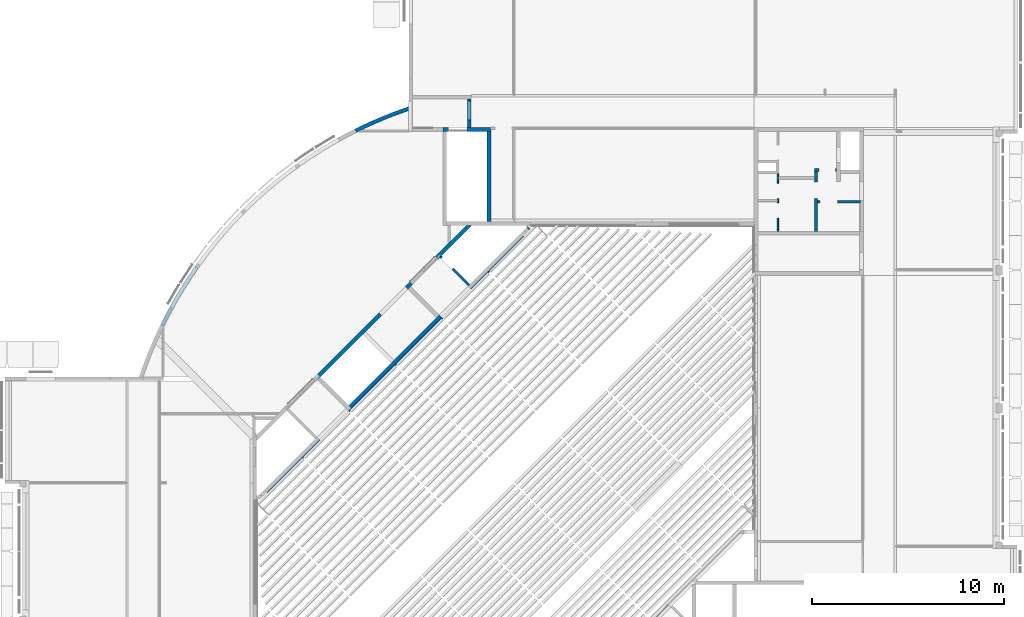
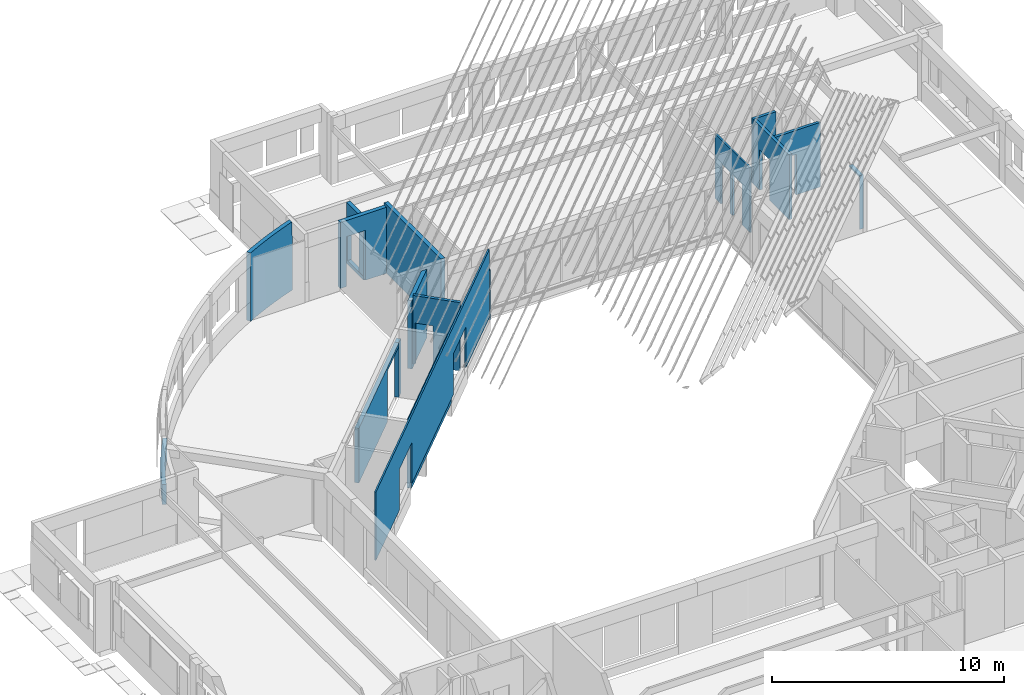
# One storey, part 36 of 37: 17 walls.
"""IFC4X3_ADD2 building model written with IfcOpenShell, lengths in millimetres."""

import ifcopenshell
import ifcopenshell.guid

model = None  # the IFC model being written
_history = None  # IfcOwnerHistory: only IFC2X3 demands one
_inside = {}  # id of a spatial element -> (the spatial element, [elements in it])
_under = {}  # id of a project, library or spatial element -> (it, [spatial elements below it])
_declared = {}  # id of a project -> (the project, [libraries it declares])
_typed = {}  # id of a type object -> (the type object, [elements of that type])
_made_of = {}  # id of a material, layer set ... -> (it, [elements and type objects made of it])


def new_model(schema):
    """Start an empty IFC model of exactly this schema.

    Asked for "IFC4X3", IfcOpenShell would pick the latest addendum, in which some entities
    have other attributes; the version numbers below select the first issue.
    IFC2X3 requires an IfcOwnerHistory on every rooted entity: one is made here for all.
    """
    global model, _history
    if schema == "IFC4X3":
        model = ifcopenshell.file(schema_version=(4, 3, 0, 0))
    else:
        model = ifcopenshell.file(schema=schema)
    _inside.clear()
    _under.clear()
    _declared.clear()
    _typed.clear()
    _made_of.clear()
    _history = None
    if model.schema == "IFC2X3":
        org = make("IfcOrganization", Name="unknown")
        user = make(
            "IfcPersonAndOrganization",
            ThePerson=make("IfcPerson", FamilyName="unknown"),
            TheOrganization=org,
        )
        app = make(
            "IfcApplication",
            ApplicationDeveloper=org,
            Version="unknown",
            ApplicationFullName="unknown",
            ApplicationIdentifier="unknown",
        )
        _history = make(
            "IfcOwnerHistory",
            OwningUser=user,
            OwningApplication=app,
            ChangeAction="ADDED",
            CreationDate=0,
        )
    return model


def make(cls, **values):
    """One entity of the class cls with the attributes given. An attribute that is None is left unset."""
    return model.create_entity(
        cls, **{name: value for name, value in values.items() if value is not None}
    )


def rooted(cls, **values):
    """An entity with a GlobalId (a new one), such as an element, a storey or a relation."""
    return make(cls, GlobalId=ifcopenshell.guid.new(), OwnerHistory=_history, **values)


def si_unit(unit_type, name, prefix=None):
    """IfcSIUnit, for example si_unit("LENGTHUNIT", "METRE", prefix="MILLI")."""
    return make("IfcSIUnit", UnitType=unit_type, Prefix=prefix, Name=name)


def assignment(units):
    """IfcUnitAssignment: the units of a project."""
    return None if units is None else make("IfcUnitAssignment", Units=units)


def point(xyz):
    """IfcCartesianPoint."""
    return None if xyz is None else make("IfcCartesianPoint", Coordinates=xyz)


def direction(xyz):
    """IfcDirection."""
    return None if xyz is None else make("IfcDirection", DirectionRatios=xyz)


def frame(location, z_axis=None, x_axis=None):
    """IfcAxis2Placement3D, a coordinate frame: its origin and axes. An axis left out is left unset."""
    return make(
        "IfcAxis2Placement3D",
        Location=point(location),
        Axis=direction(z_axis),
        RefDirection=direction(x_axis),
    )


def origin_with_axes():
    """The frame at (0, 0, 0) with the z axis (0, 0, 1) and the x axis (1, 0, 0) written out."""
    return frame((0.0, 0.0, 0.0), z_axis=(0.0, 0.0, 1.0), x_axis=(1.0, 0.0, 0.0))


def place(relative_to, where):
    """IfcLocalPlacement: puts the frame where relative to a parent placement (None: the world)."""
    return make(
        "IfcLocalPlacement", PlacementRelTo=relative_to, RelativePlacement=where
    )


def context(
    kind, dimensions, precision=None, world=None, true_north=None, identifier=None
):
    """IfcGeometricRepresentationContext, for example the 3D "Model" context."""
    return make(
        "IfcGeometricRepresentationContext",
        ContextIdentifier=identifier,
        ContextType=kind,
        CoordinateSpaceDimension=dimensions,
        Precision=precision,
        WorldCoordinateSystem=world,
        TrueNorth=true_north,
    )


def subcontext(parent, identifier, kind, view, scale=None):
    """IfcGeometricRepresentationSubContext, for example "Body" below "Model"."""
    return make(
        "IfcGeometricRepresentationSubContext",
        ContextIdentifier=identifier,
        ContextType=kind,
        ParentContext=parent,
        TargetScale=scale,
        TargetView=view,
    )


def project(units=None, contexts=None):
    """IfcProject with its units and contexts."""
    return rooted(
        "IfcProject",
        Name="project",
        RepresentationContexts=contexts,
        UnitsInContext=assignment(units),
    )


def spatial(cls, under=None, at=None, **own):
    """A site, building, storey or space (cls), placed at a placement, below another one or the project."""
    s = rooted(cls, ObjectPlacement=at, **own)
    if under is not None:
        _under.setdefault(under.id(), (under, []))[1].append(s)
    return s


def point_list(points):
    """IfcCartesianPointList2D or 3D."""
    cls = (
        "IfcCartesianPointList2D" if len(points[0]) == 2 else "IfcCartesianPointList3D"
    )
    return make(cls, CoordList=points)


def polygons(points, faces, closed=None, point_numbers=None):
    """IfcPolygonalFaceSet: a face is its outer loop, then its inner loops; points numbered from 1."""
    made = []
    for loops in faces:
        if len(loops) == 1:
            made.append(make("IfcIndexedPolygonalFace", CoordIndex=loops[0]))
        else:
            made.append(
                make(
                    "IfcIndexedPolygonalFaceWithVoids",
                    CoordIndex=loops[0],
                    InnerCoordIndices=loops[1:],
                )
            )
    return make(
        "IfcPolygonalFaceSet",
        Coordinates=point_list(points),
        Closed=closed,
        Faces=made,
        PnIndex=point_numbers,
    )


def shape(context_of_items, identifier, shape_type, items):
    """IfcShapeRepresentation: the items that make up one representation, for example the "Body"."""
    return make(
        "IfcShapeRepresentation",
        ContextOfItems=context_of_items,
        RepresentationIdentifier=identifier,
        RepresentationType=shape_type,
        Items=items,
    )


def source(mapping_origin, context_of_items, identifier, shape_type, items):
    """IfcRepresentationMap: a shape defined once, which mapped items show again and again."""
    return make(
        "IfcRepresentationMap",
        MappingOrigin=mapping_origin,
        MappedRepresentation=shape(context_of_items, identifier, shape_type, items),
    )


def transform(
    local_origin,
    x_axis=None,
    y_axis=None,
    z_axis=None,
    scale=None,
    scale2=None,
    scale3=None,
    uniform=True,
):
    """IfcCartesianTransformationOperator3D, or its non-uniform kind. x_axis, y_axis, z_axis: its Axis1, 2, 3."""
    if uniform:
        return make(
            "IfcCartesianTransformationOperator3D",
            Axis1=direction(x_axis),
            Axis2=direction(y_axis),
            LocalOrigin=point(local_origin),
            Scale=scale,
            Axis3=direction(z_axis),
        )
    return make(
        "IfcCartesianTransformationOperator3DnonUniform",
        Axis1=direction(x_axis),
        Axis2=direction(y_axis),
        LocalOrigin=point(local_origin),
        Scale=scale,
        Axis3=direction(z_axis),
        Scale2=scale2,
        Scale3=scale3,
    )


def mapped(mapping_source, mapping_target):
    """IfcMappedItem: shows the shape of a source again, moved by a transform."""
    return make(
        "IfcMappedItem", MappingSource=mapping_source, MappingTarget=mapping_target
    )


def material(Name=None, Category=None):
    """IfcMaterial."""
    return make("IfcMaterial", Name=Name, Category=Category)


def made_of(thing, what):
    """Note that an element or type object is made of a material, layer set ...; save() writes the relation."""
    if what is not None:
        _made_of.setdefault(what.id(), (what, []))[1].append(thing)
    return thing


def type_object(cls, material=None, **own):
    """A type object (cls), such as IfcWallType, which elements share."""
    return made_of(rooted(cls, **own), material)


def type_shapes(of_type, sources):
    """Give a type object the sources (RepresentationMaps) that its elements show as mapped items."""
    of_type.RepresentationMaps = sources


def element(
    cls,
    number,
    at=None,
    inside=None,
    cuts=None,
    type_object=None,
    material=None,
    context=None,
    identifier="Body",
    shape_type=None,
    held_by="IfcProductDefinitionShape",
    body=None,
    shapes=None,
    **own,
):
    """One element of the class cls, such as IfcWall. Its Tag is "e" and its number.

    at: its placement. inside: the storey or other place that contains it. cuts: it is an
    opening in that element (IfcRelVoidsElement). A single representation is given by context,
    identifier, shape_type and body (its items); several are given by shapes. held_by: the class
    of the entity that holds the representations. save() writes the other relations.
    """
    e = rooted(cls, Tag="e%d" % number, ObjectPlacement=at, **own)
    if body is not None:
        shapes = [shape(context, identifier, shape_type, body)]
    if shapes is not None:
        e.Representation = make(held_by, Representations=shapes)
    if inside is not None:
        _inside.setdefault(inside.id(), (inside, []))[1].append(e)
    if cuts is not None:
        rooted(
            "IfcRelVoidsElement", RelatingBuildingElement=cuts, RelatedOpeningElement=e
        )
    if type_object is not None:
        _typed.setdefault(type_object.id(), (type_object, []))[1].append(e)
    return made_of(e, material)


def aggregate(whole, parts):
    """IfcRelAggregates: a whole, such as a stair, and the parts it consists of."""
    return rooted("IfcRelAggregates", RelatingObject=whole, RelatedObjects=parts)


def save(model, path):
    """Write the relations noted so far, then the file.

    IfcRelAggregates (storeys below a building ...), IfcRelContainedInSpatialStructure (elements
    in a storey), IfcRelDefinesByType, IfcRelAssociatesMaterial and IfcRelDeclares: one each for
    every whole, place, type object, material and project.
    """
    for whole, parts in _under.values():
        aggregate(whole, parts)
    for where, things in _inside.values():
        rooted(
            "IfcRelContainedInSpatialStructure",
            RelatedElements=things,
            RelatingStructure=where,
        )
    for kind, things in _typed.values():
        rooted("IfcRelDefinesByType", RelatedObjects=things, RelatingType=kind)
    for what, things in _made_of.values():
        rooted("IfcRelAssociatesMaterial", RelatedObjects=things, RelatingMaterial=what)
    for by, libraries in _declared.values():
        rooted("IfcRelDeclares", RelatingContext=by, RelatedDefinitions=libraries)
    model.write(path)


model = new_model("IFC4X3_ADD2")

# Units and contexts
model_context = context("Model", 3, precision=1e-05, world=origin_with_axes(), true_north=direction((0.0, 1.0)))
body_context = subcontext(model_context, "Body", "Model", "MODEL_VIEW")
ifc_project = project(units=[si_unit("LENGTHUNIT", "METRE", prefix="MILLI"), si_unit("AREAUNIT", "SQUARE_METRE"), si_unit("VOLUMEUNIT", "CUBIC_METRE"), si_unit("PLANEANGLEUNIT", "RADIAN"), si_unit("TIMEUNIT", "SECOND"), si_unit("MASSUNIT", "GRAM")], contexts=[model_context])

# Site, building, storey
site_placement = place(None, origin_with_axes())
site = spatial("IfcSite", under=ifc_project, at=site_placement, Name="Site", CompositionType="ELEMENT")
building_placement = place(site_placement, origin_with_axes())
building = spatial("IfcBuilding", under=site, at=building_placement, Name="IFC Building Story")
storey_placement = place(building_placement, frame((0.0, 0.0, 3600.0), z_axis=(0.0, 0.0, 1.0), x_axis=(1.0, 0.0, 0.0)))
storey = spatial("IfcBuildingStorey", under=building, at=storey_placement, Name="010", Elevation=3600.0)

# Walls
ifc_material = material(Name="BB_Metselwerk_Betonsteen")
wall_type_1 = type_object("IfcWallType", Name="Basic Wall_BB_03.09.24#06_Wand uit metselwerk_EI60_43dB_ 190 mm", PredefinedType="NOTDEFINED")
shared_shape_1 = source(origin_with_axes(), body_context, "Body", "Tessellation", [
    polygons([(0.0, -94.9999999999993, 0.0), (1494.99999999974, -94.9999999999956, 0.0), (1494.99999999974, -94.9999999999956, 170.0), (0.0, -94.9999999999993, 170.0), (1494.99999999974, 95.0, 0.0), (0.0, 95.0, 0.0), (0.0, 95.0, 170.0), (1494.99999999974, 95.0, 170.0)], [[[1, 2, 3, 4]], [[5, 6, 7, 8]], [[2, 1, 6, 5]], [[2, 5, 8, 3]], [[4, 3, 8, 7]], [[6, 1, 4, 7]]]),
    polygons([(0.0, -94.9999999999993, 3200.0), (1494.99999999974, -94.9999999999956, 3200.0), (1494.99999999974, 95.0, 3200.0), (0.0, 95.0, 3200.0), (1494.99999999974, 95.0, 194.999999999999), (1494.99999999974, -94.9999999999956, 194.999999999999), (1099.99999999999, -94.9999999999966, 194.999999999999), (1099.99999999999, 94.9999999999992, 194.999999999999), (1099.99999999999, 94.9999999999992, 2360.0), (1099.99999999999, -94.9999999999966, 2360.0), (109.999999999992, -94.999999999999, 2360.0), (109.999999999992, 95.0000000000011, 2360.0), (109.999999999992, -94.999999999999, 194.999999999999), (109.999999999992, 95.0000000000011, 194.999999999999), (0.0, 95.0, 194.999999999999), (0.0, -94.9999999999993, 194.999999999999)], [[[1, 2, 3, 4]], [[5, 6, 7, 8]], [[9, 10, 11, 12]], [[12, 11, 13, 14]], [[10, 9, 8, 7]], [[1, 4, 15, 16]], [[16, 15, 14, 13]], [[3, 2, 6, 5]], [[12, 14, 15]], [[12, 15, 4]], [[4, 3, 9]], [[4, 9, 12]], [[3, 5, 8]], [[3, 8, 9]], [[10, 7, 6]], [[10, 6, 2]], [[2, 1, 11]], [[2, 11, 10]], [[1, 16, 13]], [[1, 13, 11]]]),
])
type_shapes(wall_type_1, [shared_shape_1])
wall_1_placement = place(storey_placement, frame((-27530.0, 45195.0, -200.0), z_axis=(0.0, 0.0, 1.0), x_axis=(0.0, -1.0, 0.0)))
element("IfcWall", 1, at=wall_1_placement, inside=storey, type_object=wall_type_1, material=ifc_material, Name="Basic Wall:BB_03.09.24#06_Wand uit metselwerk_EI60_43dB, 190 mm", ObjectType="Basic Wall:BB_03.09.24#06_Wand uit metselwerk_EI60_43dB, 190 mm", PredefinedType="SOLIDWALL", context=body_context, shape_type="MappedRepresentation", body=[
    mapped(shared_shape_1, transform((0.0, 0.0, 0.0))),
])
wall_type_2 = type_object("IfcWallType", Name="Basic Wall_BB_10.01_Akoestische voorzetwand atrium_ 75 mm1", PredefinedType="NOTDEFINED")
shared_shape_2 = source(origin_with_axes(), body_context, "Body", "Tessellation", [
    polygons([(4.33146851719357e-12, 37.4999999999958, 0.0), (3899.99999999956, 37.4999999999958, 0.0), (3899.99999999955, -12.5000000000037, 0.0), (-2.16573425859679e-12, -12.5000000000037, 0.0), (18900.0, 37.4999999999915, 0.0), (18900.0, 37.4999999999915, 3600.0), (18900.0, -12.5000000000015, 3600.0), (18900.0, -12.4999999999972, 0.0), (4.33146851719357e-12, 37.4999999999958, 3600.0), (-2.16573425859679e-12, -12.5000000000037, 3600.0), (3899.99999999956, 37.4999999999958, 2155.0), (3899.99999999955, -12.5000000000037, 2155.0), (5999.99999999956, 37.4999999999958, 2155.00000000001), (5999.99999999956, -12.5000000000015, 2155.00000000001), (5999.99999999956, 37.4999999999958, 0.0), (5999.99999999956, -12.5000000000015, 0.0), (12900.0000000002, 37.4999999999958, 0.0), (12900.0000000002, -12.4999999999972, 0.0), (12900.0000000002, 37.4999999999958, 2155.00000000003), (12900.0000000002, -12.4999999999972, 2155.00000000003), (15000.0000000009, 37.4999999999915, 2155.00000000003), (15000.0000000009, -12.5000000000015, 2155.00000000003), (15000.0000000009, 37.4999999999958, 0.0), (15000.0000000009, -12.5000000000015, 0.0)], [[[1, 2, 3, 4]], [[5, 6, 7, 8]], [[6, 9, 10, 7]], [[9, 1, 4, 10]], [[2, 11, 12, 3]], [[11, 13, 14, 12]], [[13, 15, 16, 14]], [[15, 17, 18, 16]], [[17, 19, 20, 18]], [[19, 21, 22, 20]], [[21, 23, 24, 22]], [[23, 5, 8, 24]], [[22, 24, 8]], [[22, 8, 7]], [[7, 20, 22]], [[20, 7, 14]], [[14, 16, 18]], [[14, 18, 20]], [[7, 10, 14]], [[10, 12, 14]], [[10, 4, 3]], [[10, 3, 12]], [[11, 2, 1]], [[11, 1, 9]], [[9, 13, 11]], [[13, 9, 19]], [[19, 17, 15]], [[19, 15, 13]], [[9, 6, 19]], [[6, 21, 19]], [[6, 5, 23]], [[6, 23, 21]]]),
    polygons([(0.0, -25.0000000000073, 0.0), (-2.16573425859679e-12, -12.5000000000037, 0.0), (3899.99999999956, -12.5000000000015, 0.0), (3899.99999999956, -25.000000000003, 0.0), (18900.0, -25.000000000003, 0.0), (18900.0, -12.4999999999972, 0.0), (18900.0, -12.5000000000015, 3600.0), (18900.0, -25.000000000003, 3600.0), (-2.16573425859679e-12, -12.5000000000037, 3600.0), (0.0, -25.0000000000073, 3600.0), (3899.99999999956, -12.5000000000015, 2155.0), (3899.99999999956, -25.000000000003, 2155.0), (5999.99999999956, -12.5000000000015, 2155.00000000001), (5999.99999999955, -25.0000000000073, 2155.00000000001), (5999.99999999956, -12.5000000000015, 0.0), (5999.99999999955, -25.0000000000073, 0.0), (12900.0000000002, -12.4999999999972, 0.0), (12900.0000000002, -25.000000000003, 0.0), (12900.0000000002, -12.4999999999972, 2155.00000000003), (12900.0000000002, -25.000000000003, 2155.00000000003), (15000.0000000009, -12.5000000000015, 2155.00000000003), (15000.0000000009, -25.000000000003, 2155.00000000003), (15000.0000000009, -12.4999999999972, 0.0), (15000.0000000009, -24.9999999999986, 0.0)], [[[1, 2, 3, 4]], [[5, 6, 7, 8]], [[8, 7, 9, 10]], [[2, 1, 10, 9]], [[4, 3, 11, 12]], [[12, 11, 13, 14]], [[14, 13, 15, 16]], [[16, 15, 17, 18]], [[18, 17, 19, 20]], [[20, 19, 21, 22]], [[22, 21, 23, 24]], [[6, 5, 24, 23]], [[22, 24, 5]], [[22, 5, 8]], [[8, 20, 22]], [[20, 8, 14]], [[14, 16, 18]], [[14, 18, 20]], [[8, 10, 14]], [[10, 12, 14]], [[10, 1, 4]], [[10, 4, 12]], [[11, 3, 2]], [[11, 2, 9]], [[9, 13, 11]], [[13, 9, 19]], [[19, 17, 15]], [[19, 15, 13]], [[9, 7, 19]], [[7, 21, 19]], [[7, 6, 23]], [[7, 23, 21]]]),
    polygons([(3899.99999999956, -25.000000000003, 0.0), (0.0, -25.0000000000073, 0.0), (0.0, -25.0000000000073, 3600.0), (18900.0, -25.000000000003, 3600.0), (18900.0, -25.000000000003, 0.0), (15000.0000000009, -24.9999999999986, 0.0), (15000.0000000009, -25.000000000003, 2155.00000000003), (12900.0000000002, -25.000000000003, 2155.00000000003), (12900.0000000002, -25.000000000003, 0.0), (5999.99999999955, -25.0000000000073, 0.0), (5999.99999999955, -25.0000000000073, 2155.00000000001), (3899.99999999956, -25.000000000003, 2155.0), (-2.16573425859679e-12, -37.5000000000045, 0.0), (3899.99999999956, -37.5000000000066, 0.0), (3899.99999999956, -37.5000000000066, 2155.0), (5999.99999999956, -37.5000000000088, 2155.00000000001), (5999.99999999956, -37.5000000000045, 0.0), (12900.0000000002, -37.5000000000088, 0.0), (12900.0000000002, -37.5000000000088, 2155.00000000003), (15000.0000000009, -37.5000000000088, 2155.00000000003), (15000.0000000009, -37.5000000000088, 0.0), (18900.0, -37.5000000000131, 0.0), (18900.0, -37.5000000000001, 3600.0), (-2.16573425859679e-12, -37.5000000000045, 3600.0)], [[[12, 1, 2]], [[12, 2, 3]], [[3, 11, 12]], [[11, 3, 8]], [[8, 9, 10]], [[8, 10, 11]], [[3, 4, 8]], [[4, 7, 8]], [[4, 5, 6]], [[4, 6, 7]], [[20, 21, 22]], [[20, 22, 23]], [[23, 19, 20]], [[19, 23, 16]], [[16, 17, 18]], [[16, 18, 19]], [[23, 24, 16]], [[24, 15, 16]], [[24, 13, 14]], [[24, 14, 15]], [[14, 13, 2, 1]], [[23, 22, 5, 4]], [[24, 23, 4, 3]], [[13, 24, 3, 2]], [[15, 14, 1, 12]], [[16, 15, 12, 11]], [[17, 16, 11, 10]], [[18, 17, 10, 9]], [[19, 18, 9, 8]], [[20, 19, 8, 7]], [[21, 20, 7, 6]], [[22, 21, 6, 5]]]),
])
type_shapes(wall_type_2, [shared_shape_2])
wall_2_placement = place(storey_placement, frame((-38035.7940969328, 24671.4759325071, 230.0), z_axis=(0.0, 0.0, 1.0), x_axis=(0.7071067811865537, 0.7071067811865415, 0.0)))
element("IfcWall", 2, at=wall_2_placement, inside=storey, type_object=wall_type_2, Name="Basic Wall:BB_10.01_Akoestische voorzetwand atrium, 75 mm", ObjectType="Basic Wall:BB_10.01_Akoestische voorzetwand atrium, 75 mm", PredefinedType="PARTITIONING", context=body_context, shape_type="MappedRepresentation", body=[
    mapped(shared_shape_2, transform((0.0, 0.0, 0.0))),
])
wall_3_placement = place(storey_placement, frame((0.0, 0.0, -3600.0), z_axis=(0.0, 0.0, 1.0), x_axis=(1.0, 0.0, 0.0)))
element("IfcWall", 3, at=wall_3_placement, inside=storey, Name="Basic Wall:BB_XX_Wand uit beton, 200 mm", ObjectType="Basic Wall:BB_XX_Wand uit beton, 200 mm", PredefinedType="SOLIDWALL", context=body_context, shape_type="Tessellation", body=[
    polygons([(-35435.40890911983, 30577.58532236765, 6280.0), (-35435.40890911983, 30577.58532236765, 3400.0), (-32095.03647479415, 33917.95775669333, 3400.000000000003), (-32095.03647479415, 33917.95775669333, 6095.0), (-30719.00667860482, 35293.98755288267, 6095.0), (-30719.00667860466, 35293.98755288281, 6280.0), (-35576.83026535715, 30719.00667860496, 3400.0), (-35576.83026535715, 30719.00667860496, 6280.0), (-30860.42803484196, 35435.40890912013, 6280.0), (-30860.42803484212, 35435.40890911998, 6095.0), (-32236.45783103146, 34059.37911293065, 6095.0), (-32236.45783103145, 34059.37911293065, 3400.000000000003)], [[[4, 5, 6]], [[4, 6, 1]], [[1, 2, 3]], [[1, 3, 4]], [[11, 12, 7]], [[11, 7, 8]], [[8, 9, 11]], [[9, 10, 11]], [[2, 7, 12, 3]], [[8, 1, 6, 9]], [[2, 1, 8, 7]], [[12, 11, 4, 3]], [[11, 10, 5, 4]], [[6, 5, 10, 9]]]),
])
wall_4_placement = place(storey_placement, frame((0.0, 0.0, -3600.0), z_axis=(0.0, 0.0, 1.0), x_axis=(1.0, 0.0, 0.0)))
element("IfcWall", 4, at=wall_4_placement, inside=storey, Name="Basic Wall:BB_XX_Wand uit beton, 200 mm", ObjectType="Basic Wall:BB_XX_Wand uit beton, 200 mm", PredefinedType="SOLIDWALL", context=body_context, shape_type="Tessellation", body=[
    polygons([(-29092.66108187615, 33950.48466862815, 7000.0), (-29092.66108187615, 33950.48466862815, 3400.0), (-29234.08243811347, 33809.06331239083, 3400.0), (-33809.06331239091, 29234.0824381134, 3400.0), (-33809.06331239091, 29234.0824381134, 7000.0), (-29234.08243811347, 33809.06331239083, 7000.0), (-28951.23972563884, 33809.06331239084, 3400.0), (-28951.23972563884, 33809.06331239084, 7000.0), (-33667.6419561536, 29092.6610818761, 7000.0), (-33667.6419561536, 29092.6610818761, 3400.0)], [[[3, 4, 5]], [[3, 5, 6]], [[6, 1, 2]], [[6, 2, 3]], [[7, 8, 9, 10]], [[3, 2, 7]], [[7, 10, 4]], [[7, 4, 3]], [[6, 5, 9]], [[6, 9, 8]], [[8, 1, 6]], [[2, 1, 8, 7]], [[5, 4, 10, 9]]]),
])
wall_5_placement = place(storey_placement, frame((0.0, 0.0, -3600.0), z_axis=(0.0, 0.0, 1.0), x_axis=(1.0, 0.0, 0.0)))
element("IfcWall", 5, at=wall_5_placement, inside=storey, Name="Basic Wall:BB_XX_Wand uit beton, 200 mm", ObjectType="Basic Wall:BB_XX_Wand uit beton, 200 mm", PredefinedType="SOLIDWALL", context=body_context, shape_type="Tessellation", body=[
    polygons([(-26600.00000000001, 38799.99593411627, 3520.0), (-26600.00000000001, 38799.99593411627, 7120.0), (-26600.0, 43700.0, 7120.0), (-26600.0, 43700.0, 7000.0), (-26600.0, 43510.00000000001, 7000.0), (-26600.0, 43500.0, 7000.0), (-26600.0, 43500.0, 3520.0), (-26400.0, 38799.99593411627, 7120.0), (-26400.0, 38799.99593411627, 3520.0), (-26400.0, 43500.0, 3520.0), (-26400.0, 43500.0, 7000.0), (-26400.0, 43510.00000000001, 7000.0), (-26400.0, 43700.0, 7000.0), (-26400.0, 43700.0, 7120.0)], [[[6, 7, 1]], [[6, 1, 2]], [[2, 3, 6]], [[3, 5, 6]], [[3, 4, 5]], [[12, 13, 14]], [[14, 11, 12]], [[11, 14, 8]], [[8, 9, 10]], [[8, 10, 11]], [[9, 1, 7, 10]], [[14, 3, 2, 8]], [[3, 14, 13, 4]], [[2, 1, 9, 8]], [[6, 11, 10, 7]], [[11, 6, 5, 12]], [[12, 5, 4, 13]]]),
])
wall_6_placement = place(storey_placement, frame((0.0, 0.0, -3600.0), z_axis=(0.0, 0.0, 1.0), x_axis=(1.0, 0.0, 0.0)))
element("IfcWall", 6, at=wall_6_placement, inside=storey, Name="Basic Wall:BB_XX_Wand uit beton, 200 mm", ObjectType="Basic Wall:BB_XX_Wand uit beton, 200 mm", PredefinedType="SOLIDWALL", context=body_context, shape_type="Tessellation", body=[
    polygons([(-28900.0, 43500.00000000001, 3520.0), (-28700.0, 43500.00000000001, 3520.0), (-28600.00000000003, 43500.00000000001, 3520.0), (-28600.00000000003, 43500.00000000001, 6150.0), (-27640.00000000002, 43500.00000000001, 6150.0), (-27640.00000000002, 43500.00000000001, 3520.0), (-26600.00000000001, 43500.00000000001, 3520.0), (-26400.00000000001, 43500.00000000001, 3520.0), (-26400.00000000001, 43500.00000000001, 7000.0), (-26600.00000000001, 43500.00000000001, 7000.0), (-28900.0, 43500.00000000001, 7000.0), (-28900.0, 43700.0, 3520.0), (-28900.0, 43700.0, 7000.0), (-26600.00000000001, 43700.0, 7000.0), (-26400.00000000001, 43700.0, 7000.0), (-26400.00000000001, 43700.0, 3520.0), (-27640.00000000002, 43700.0, 3520.0), (-27640.00000000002, 43700.0, 6150.0), (-28600.00000000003, 43700.0, 6150.0), (-28600.00000000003, 43700.0, 3520.0), (-28900.0, 43510.00000000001, 7000.0), (-26400.00000000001, 43510.00000000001, 7000.0)], [[[7, 8, 9]], [[7, 9, 10]], [[7, 10, 5]], [[5, 6, 7]], [[10, 11, 4]], [[10, 4, 5]], [[11, 2, 3]], [[11, 3, 4]], [[11, 1, 2]], [[14, 15, 16]], [[19, 20, 12]], [[19, 12, 13]], [[13, 14, 18]], [[13, 18, 19]], [[14, 16, 17]], [[14, 17, 18]], [[21, 13, 12]], [[21, 12, 1]], [[1, 11, 21]], [[2, 1, 12]], [[2, 12, 20]], [[20, 3, 2]], [[22, 9, 8]], [[8, 16, 15]], [[8, 15, 22]], [[4, 3, 20, 19]], [[5, 4, 19, 18]], [[6, 5, 18, 17]], [[7, 6, 17]], [[7, 17, 16]], [[16, 8, 7]], [[10, 9, 22]], [[10, 22, 21]], [[21, 11, 10]], [[14, 13, 21]], [[14, 21, 22]], [[22, 15, 14]]]),
])
wall_7_placement = place(storey_placement, frame((0.0, 0.0, -3600.0), z_axis=(0.0, 0.0, 1.0), x_axis=(1.0, 0.0, 0.0)))
element("IfcWall", 7, at=wall_7_placement, inside=storey, Name="Basic Wall:BB_XX_Wand uit beton, 200 mm", ObjectType="Basic Wall:BB_XX_Wand uit beton, 200 mm", PredefinedType="SOLIDWALL", context=body_context, shape_type="Tessellation", body=[
    polygons([(-30634.15386486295, 35661.68307909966, 3400.0), (-30860.42803484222, 35435.40890912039, 3400.0), (-30860.42803484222, 35435.40890912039, 6095.0), (-30860.42803484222, 35435.40890912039, 6280.0), (-30634.15386486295, 35661.68307909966, 6280.0), (-30719.00667860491, 35293.98755288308, 3400.0), (-30492.73250862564, 35520.26172286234, 3400.0), (-30492.73250862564, 35520.26172286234, 6280.0), (-30719.00667860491, 35293.98755288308, 6280.0), (-30719.00667860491, 35293.98755288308, 6095.0)], [[[3, 4, 5]], [[5, 1, 2]], [[5, 2, 3]], [[10, 6, 7]], [[10, 7, 8]], [[8, 9, 10]], [[2, 1, 7, 6]], [[10, 9, 4]], [[10, 4, 3]], [[3, 2, 6]], [[3, 6, 10]], [[5, 4, 9, 8]], [[1, 5, 8, 7]]]),
])
wall_8_placement = place(storey_placement, frame((0.0, 0.0, -3600.0), z_axis=(0.0, 0.0, 1.0), x_axis=(1.0, 0.0, 0.0)))
element("IfcWall", 8, at=wall_8_placement, inside=storey, Name="Basic Wall:BB_XX_Wand uit beton, 200 mm", ObjectType="Basic Wall:BB_XX_Wand uit beton, 200 mm", PredefinedType="SOLIDWALL", context=body_context, shape_type="Tessellation", body=[
    polygons([(-27554.41965360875, 38741.41729035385, 3400.0), (-28484.00000000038, 37811.83694396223, 3400.0), (-28624.00000000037, 37671.83694396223, 3400.0), (-29297.72204842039, 36998.11489554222, 3400.0), (-29297.72204842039, 36998.11489554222, 7000.0), (-28624.00000000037, 37671.83694396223, 7000.0), (-28484.00000000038, 37811.83694396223, 7000.0), (-27695.84100984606, 38599.99593411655, 7000.0), (-27695.84100984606, 38599.99593411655, 3520.0), (-27554.41965360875, 38741.41729035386, 3520.0), (-29156.30069218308, 36856.69353930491, 3400.0), (-27412.99829737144, 38599.99593411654, 3400.0), (-27412.99829737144, 38599.99593411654, 3520.0), (-27412.99829737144, 38599.99593411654, 7000.0), (-29156.30069218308, 36856.69353930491, 7000.0)], [[[3, 4, 5]], [[3, 5, 6]], [[6, 7, 2]], [[6, 2, 3]], [[9, 10, 1]], [[9, 1, 2]], [[2, 7, 8]], [[2, 8, 9]], [[13, 14, 15]], [[13, 15, 11]], [[11, 12, 13]], [[2, 1, 12]], [[2, 12, 11]], [[11, 3, 2]], [[11, 4, 3]], [[5, 4, 11, 15]], [[6, 5, 15]], [[15, 7, 6]], [[15, 14, 8]], [[15, 8, 7]], [[12, 1, 10, 13]], [[13, 9, 8, 14]], [[9, 13, 10]]]),
])
wall_9_placement = place(storey_placement, frame((0.0, 0.0, -3600.0), z_axis=(0.0, 0.0, 1.0), x_axis=(1.0, 0.0, 0.0)))
element("IfcWall", 9, at=wall_9_placement, inside=storey, Name="Basic Wall:BB_XX_Wand uit metselwerk, 90 mm", ObjectType="Basic Wall:BB_XX_Wand uit metselwerk, 90 mm", PredefinedType="SOLIDWALL", context=body_context, shape_type="Tessellation", body=[
    polygons([(-11410.004065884, 41299.99999999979, 3520.0), (-11410.004065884, 41299.99999999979, 6920.0), (-11410.004065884, 38300.0, 6920.0), (-11410.004065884, 38300.0, 3520.0), (-11410.004065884, 38991.9999999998, 3520.0), (-11410.004065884, 38991.9999999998, 5660.0), (-11410.004065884, 39797.9999999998, 5660.0), (-11410.004065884, 39797.9999999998, 3520.0), (-11410.004065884, 40001.99999999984, 3520.0), (-11410.004065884, 40001.99999999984, 5660.0), (-11410.004065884, 40807.99999999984, 5660.0), (-11410.004065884, 40807.99999999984, 3520.0), (-11500.004065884, 41299.99999999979, 6920.0), (-11500.004065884, 41299.99999999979, 3520.0), (-11500.004065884, 40807.99999999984, 3520.0), (-11500.004065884, 40807.99999999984, 5660.0), (-11500.004065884, 40001.99999999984, 5660.0), (-11500.004065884, 40001.99999999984, 3520.0), (-11500.004065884, 39797.99999999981, 3520.0), (-11500.004065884, 39797.9999999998, 5660.0), (-11500.004065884, 38991.9999999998, 5660.0), (-11500.004065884, 38991.9999999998, 3520.0), (-11500.004065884, 38300.0, 3520.0), (-11500.004065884, 38300.0, 6920.0)], [[[11, 12, 1]], [[11, 1, 2]], [[2, 10, 11]], [[2, 7, 10]], [[7, 8, 9]], [[7, 9, 10]], [[2, 3, 7]], [[3, 6, 7]], [[3, 4, 5]], [[3, 5, 6]], [[21, 22, 23]], [[21, 23, 24]], [[24, 20, 21]], [[24, 17, 20]], [[17, 18, 19]], [[17, 19, 20]], [[24, 13, 17]], [[13, 16, 17]], [[13, 14, 15]], [[13, 15, 16]], [[4, 23, 22, 5]], [[2, 1, 14, 13]], [[3, 2, 13, 24]], [[4, 3, 24, 23]], [[7, 20, 19, 8]], [[21, 6, 5, 22]], [[20, 7, 6, 21]], [[17, 10, 9, 18]], [[11, 16, 15, 12]], [[10, 17, 16, 11]], [[8, 19, 18, 9]], [[14, 1, 12, 15]]]),
])
wall_10_placement = place(storey_placement, frame((0.0, 0.0, -3600.0), z_axis=(0.0, 0.0, 1.0), x_axis=(1.0, 0.0, 0.0)))
element("IfcWall", 10, at=wall_10_placement, inside=storey, Name="Basic Wall:BB_XX_Wand uit metselwerk, 140 mm", ObjectType="Basic Wall:BB_XX_Wand uit metselwerk, 140 mm", PredefinedType="SOLIDWALL", context=body_context, shape_type="Tessellation", body=[
    polygons([(-9540.0, 41560.0, 6920.0), (-8389.999999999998, 41560.0, 6920.0), (-8389.999999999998, 41560.0, 3520.0), (-8465.000000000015, 41560.0, 3520.0), (-8465.000000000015, 41560.0, 5660.0), (-9325.000000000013, 41560.0, 5660.0), (-9325.000000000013, 41560.0, 3520.0), (-9540.0, 41560.0, 3520.0), (-8389.999999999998, 41420.0, 6920.0), (-9400.0, 41420.0, 6920.0), (-9540.0, 41420.0, 6920.0), (-9540.0, 41420.0, 3520.0), (-9400.0, 41420.0, 3520.0), (-9325.000000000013, 41420.0, 3520.0), (-9325.000000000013, 41420.0, 5660.0), (-8465.000000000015, 41420.0, 5660.0), (-8465.000000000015, 41420.0, 3520.0), (-8389.999999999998, 41420.0, 3520.0)], [[[6, 7, 8]], [[6, 8, 1]], [[1, 2, 5]], [[1, 5, 6]], [[5, 2, 3]], [[3, 4, 5]], [[10, 11, 12]], [[10, 12, 13]], [[16, 17, 18]], [[18, 9, 16]], [[9, 10, 15]], [[9, 15, 16]], [[15, 10, 13]], [[13, 14, 15]], [[3, 18, 17, 4]], [[10, 9, 2]], [[10, 2, 1]], [[1, 11, 10]], [[3, 2, 9, 18]], [[1, 8, 12, 11]], [[6, 15, 14, 7]], [[16, 5, 4, 17]], [[15, 6, 5, 16]], [[13, 12, 8]], [[13, 8, 7]], [[7, 14, 13]]]),
])
wall_11_placement = place(storey_placement, frame((0.0, 0.0, -3600.0), z_axis=(0.0, 0.0, 1.0), x_axis=(1.0, 0.0, 0.0)))
element("IfcWall", 11, at=wall_11_placement, inside=storey, Name="Basic Wall:BB_XX_Wand uit metselwerk, 140 mm", ObjectType="Basic Wall:BB_XX_Wand uit metselwerk, 140 mm", PredefinedType="SOLIDWALL", context=body_context, shape_type="Tessellation", body=[
    polygons([(-9540.0, 38300.0000000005, 3520.0), (-9540.0, 38300.0000000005, 6920.0), (-9540.0, 41420.0, 6920.0), (-9540.0, 41420.0, 3520.0), (-9540.0, 40870.00000000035, 3520.0), (-9540.0, 40870.00000000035, 5660.0), (-9540.0, 40010.00000000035, 5660.0), (-9540.0, 40010.00000000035, 3520.0), (-9400.0, 38300.0000000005, 6920.0), (-9400.0, 38300.0000000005, 3520.0), (-9400.0, 40010.00000000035, 3520.0), (-9400.0, 40010.00000000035, 5660.0), (-9400.0, 40870.00000000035, 5660.0), (-9400.0, 40870.00000000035, 3520.0), (-9400.000000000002, 41420.0, 3520.0), (-9400.000000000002, 41420.0, 6920.0)], [[[7, 8, 1]], [[7, 1, 2]], [[2, 3, 7]], [[3, 6, 7]], [[3, 4, 5]], [[3, 5, 6]], [[13, 14, 15]], [[13, 15, 16]], [[16, 12, 13]], [[12, 16, 9]], [[9, 10, 11]], [[9, 11, 12]], [[4, 15, 14, 5]], [[2, 1, 10, 9]], [[3, 2, 9, 16]], [[4, 3, 16, 15]], [[7, 12, 11, 8]], [[13, 6, 5, 14]], [[12, 7, 6, 13]], [[10, 1, 8, 11]]]),
])
wall_12_placement = place(storey_placement, frame((0.0, 0.0, -3600.0), z_axis=(0.0, 0.0, 1.0), x_axis=(1.0, 0.0, 0.0)))
element("IfcWall", 12, at=wall_12_placement, inside=storey, Name="Basic Wall:BB_XX_Wand uit metselwerk, 140 mm", ObjectType="Basic Wall:BB_XX_Wand uit metselwerk, 140 mm", PredefinedType="SOLIDWALL", context=body_context, shape_type="Tessellation", body=[
    polygons([(-7140.00000000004, 39770.0, 3520.0), (-7140.00000000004, 39770.0, 6920.0), (-9400.000000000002, 39770.0, 6920.0), (-9400.000000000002, 39770.0, 3520.0), (-9250.073181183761, 39770.0, 3520.0), (-9250.073181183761, 39770.0, 5660.0), (-8340.07318118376, 39770.0, 5660.0), (-8340.07318118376, 39770.0, 3520.0), (-7140.00000000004, 39910.0, 6920.0), (-7140.00000000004, 39910.0, 3520.0), (-8340.07318118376, 39910.0, 3520.0), (-8340.07318118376, 39910.0, 5660.0), (-9250.073181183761, 39910.0, 5660.0), (-9250.073181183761, 39910.0, 3520.0), (-9400.000000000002, 39910.0, 3520.0), (-9400.000000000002, 39910.0, 6920.0)], [[[7, 8, 1]], [[7, 1, 2]], [[2, 3, 7]], [[3, 6, 7]], [[3, 4, 5]], [[3, 5, 6]], [[13, 14, 15]], [[13, 15, 16]], [[16, 12, 13]], [[12, 16, 9]], [[9, 10, 11]], [[9, 11, 12]], [[4, 15, 14, 5]], [[2, 1, 10, 9]], [[3, 2, 9, 16]], [[4, 3, 16, 15]], [[7, 12, 11, 8]], [[13, 6, 5, 14]], [[12, 7, 6, 13]], [[10, 1, 8, 11]]]),
])
wall_13_placement = place(storey_placement, frame((0.0, 0.0, -3600.0), z_axis=(0.0, 0.0, 1.0), x_axis=(1.0, 0.0, 0.0)))
element("IfcWall", 13, at=wall_13_placement, inside=storey, Name="Basic Wall:BB_XX_Wand uit metselwerk, 200 mm", ObjectType="Basic Wall:BB_XX_Wand uit metselwerk, 200 mm", PredefinedType="SOLIDWALL", context=body_context, shape_type="Tessellation", body=[
    polygons([(-7200.0, 36299.99999999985, 3400.0), (-7200.0, 36299.99999999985, 6230.0), (-7200.0, 37210.0, 6230.0), (-7200.0, 37210.0, 6150.00000000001), (-7200.0, 36304.99999999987, 6150.00000000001), (-7200.0, 36304.99999999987, 3400.0), (-7000.0, 36299.99999999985, 6230.0), (-7000.0, 36299.99999999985, 3400.0), (-7000.0, 36304.99999999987, 3400.0), (-7000.0, 36304.99999999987, 6150.00000000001), (-7000.0, 37210.0, 6150.00000000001), (-7000.0, 37210.0, 6230.0)], [[[5, 6, 1]], [[1, 2, 5]], [[2, 3, 4]], [[2, 4, 5]], [[10, 11, 12]], [[10, 12, 7]], [[10, 7, 8]], [[8, 9, 10]], [[8, 1, 6, 9]], [[2, 1, 8, 7]], [[3, 2, 7, 12]], [[3, 12, 11, 4]], [[10, 5, 4, 11]], [[5, 10, 9, 6]]]),
])
wall_14_placement = place(storey_placement, frame((0.0, 0.0, -3600.0), z_axis=(0.0, 0.0, 1.0), x_axis=(1.0, 0.0, 0.0)))
element("IfcWall", 14, at=wall_14_placement, inside=storey, Name="Basic Wall:BB_XX_Wand uit beton, 200 mm", ObjectType="Basic Wall:BB_XX_Wand uit beton, 200 mm", PredefinedType="SOLIDWALL", context=body_context, shape_type="Tessellation", body=[
    polygons([(-42369.38949554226, 35637.81249165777, 4440.0), (-42635.59535018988, 35209.69944943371, 4440.0), (-42892.08111086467, 34775.69324148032, 4440.0), (-43138.71637855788, 34336.01451934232, 4440.0), (-43375.37576231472, 33890.88681850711, 4440.0), (-43601.93894298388, 33440.53644475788, 4440.0), (-43422.27232708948, 33352.67344268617, 4440.0), (-43197.73581586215, 33798.99530951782, 4440.0), (-42963.19341483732, 34240.14122166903, 4440.0), (-42718.76436687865, 34675.88689772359, 4440.0), (-42464.57294128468, 35106.01080178, 4440.0), (-42200.74837060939, 35530.29425608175, 4440.0), (-41927.4247849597, 35948.52155219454, 4440.0), (-41644.74114380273, 36360.4800606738, 4440.0), (-41808.36374034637, 36475.49156401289, 4440.0), (-42093.59888768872, 36059.81471273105, 4440.0), (-43422.27232708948, 33352.67344268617, 3400.0), (-43592.09195014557, 33435.72093494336, 3400.0), (-43590.36397477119, 33439.24342298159, 3400.0), (-43588.63507066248, 33442.7661793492, 3400.0), (-43362.02209549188, 33891.49224175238, 3400.0), (-43125.30602133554, 34334.97354493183, 3400.0), (-42878.60896848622, 34772.9812284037, 3400.0), (-42622.05743405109, 35205.29069797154, 3400.0), (-42355.78296815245, 35631.68028127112, 3400.0), (-42079.92210665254, 36051.9313411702, 3400.0), (-41794.61630024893, 36465.82838920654, 3400.0), (-41644.74114380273, 36360.4800606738, 3400.0), (-41927.4247849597, 35948.52155219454, 3400.0), (-42200.74837060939, 35530.29425608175, 3400.0), (-42464.57294128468, 35106.01080178, 3400.0), (-42718.76436687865, 34675.88689772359, 3400.0), (-42963.19341483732, 34240.14122166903, 3400.0), (-43197.73581586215, 33798.99530951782, 3400.0), (-43138.71637855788, 34336.01451934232, 3599.999999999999), (-42892.08111086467, 34775.69324148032, 3599.999999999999), (-42635.59535018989, 35209.69944943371, 3599.999999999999), (-42369.38949554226, 35637.81249165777, 3599.999999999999), (-42093.59888768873, 36059.81471273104, 3599.999999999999), (-41808.36374034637, 36475.49156401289, 3599.999999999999), (-41794.61630024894, 36465.82838920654, 3599.999999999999), (-42288.7790906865, 35735.67949807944, 3599.999999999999), (-42753.55883457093, 34986.48808031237, 3599.999999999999), (-43188.22400955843, 34219.43382374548, 3599.999999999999), (-43592.09195014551, 33435.72093494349, 3599.999999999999), (-43601.93894298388, 33440.53644475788, 3599.999999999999), (-43375.37576231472, 33890.88681850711, 3599.999999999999)], [[[5, 6, 7]], [[5, 7, 8]], [[8, 9, 4]], [[8, 4, 5]], [[9, 10, 3]], [[9, 3, 4]], [[10, 11, 2]], [[10, 2, 3]], [[11, 12, 1]], [[11, 1, 2]], [[13, 14, 15]], [[13, 15, 16]], [[16, 1, 12]], [[16, 12, 13]], [[26, 27, 28]], [[26, 28, 29]], [[29, 30, 25]], [[29, 25, 26]], [[30, 31, 24]], [[30, 24, 25]], [[31, 32, 23]], [[31, 23, 24]], [[32, 33, 22]], [[32, 22, 23]], [[33, 34, 21]], [[33, 21, 22]], [[34, 17, 20]], [[34, 20, 21]], [[17, 19, 20]], [[17, 18, 19]], [[39, 40, 41]], [[41, 42, 39]], [[42, 38, 39]], [[42, 37, 38]], [[42, 43, 37]], [[43, 36, 37]], [[36, 43, 44]], [[44, 35, 36]], [[47, 44, 45]], [[45, 46, 47]], [[47, 35, 44]], [[17, 34, 8, 7]], [[33, 32, 10, 9]], [[34, 33, 9, 8]], [[32, 31, 11, 10]], [[31, 30, 12, 11]], [[29, 28, 14, 13]], [[30, 29, 13, 12]], [[41, 40, 15]], [[41, 15, 14]], [[41, 14, 28]], [[28, 27, 41]], [[16, 15, 40, 39]], [[1, 16, 39, 38]], [[2, 1, 38, 37]], [[37, 36, 3, 2]], [[4, 3, 36, 35]], [[5, 4, 35, 47]], [[6, 5, 47, 46]], [[45, 18, 17]], [[17, 7, 6]], [[17, 6, 45]], [[6, 46, 45]], [[18, 45, 19]], [[21, 45, 44]], [[19, 45, 20]], [[21, 20, 45]], [[22, 21, 44]], [[44, 23, 22]], [[24, 23, 43]], [[43, 23, 44]], [[24, 43, 42]], [[26, 42, 41]], [[24, 42, 25]], [[25, 42, 26]], [[41, 27, 26]]]),
])
wall_15_placement = place(storey_placement, frame((0.0, 0.0, -3600.0), z_axis=(0.0, 0.0, 1.0), x_axis=(1.0, 0.0, 0.0)))
element("IfcWall", 15, at=wall_15_placement, inside=storey, Name="Basic Wall:BB_XX_Wand uit beton, 200 mm", ObjectType="Basic Wall:BB_XX_Wand uit beton, 200 mm", PredefinedType="SOLIDWALL", context=body_context, shape_type="Tessellation", body=[
    polygons([(-31646.34818555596, 44446.10361527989, 7000.0), (-32115.89030953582, 44256.67846875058, 7000.0), (-32581.0226887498, 44056.66956360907, 7000.0), (-33041.50679488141, 43846.17946804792, 7000.0), (-33497.10648333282, 43625.31612520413, 7000.0), (-33407.83034968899, 43446.34749118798, 7000.0), (-32966.53353604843, 43660.41621475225, 7000.0), (-32520.60665138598, 43864.6648614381, 7000.0), (-32070.26818690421, 44058.9933553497, 7000.0), (-31615.73879535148, 44243.30648117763, 7000.0), (-31157.2411829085, 44417.51393085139, 7000.0), (-30695.00000006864, 44581.53034778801, 7000.0), (-30695.00000006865, 44792.81954726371, 7000.0), (-31172.63710652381, 44624.84786254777, 7000.0), (-30695.00000006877, 44581.53034778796, 6280.0), (-30677.50249370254, 44587.51360974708, 6280.0), (-30660.00000006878, 44593.48226699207, 6280.0), (-30660.00000006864, 44804.65227186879, 6280.0), (-30677.5024442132, 44798.74313909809, 6280.0), (-30695.00000006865, 44792.81954726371, 6280.0), (-33330.48100311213, 43484.74414174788, 3400.0), (-33407.83034968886, 43446.34749118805, 3400.0), (-33497.10648333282, 43625.31612520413, 3400.0), (-33035.93544597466, 43848.80189399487, 3400.0), (-32569.76339630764, 44061.65920455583, 3400.0), (-32098.83524564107, 44263.77622872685, 3400.0), (-31623.3984039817, 44455.04678093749, 3400.0), (-31143.70265005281, 44635.37037399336, 3400.0), (-30660.00000006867, 44804.65227186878, 3400.0), (-30660.0000000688, 44593.48226699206, 3400.0), (-31084.37068615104, 44444.1374628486, 3400.0), (-31505.62010746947, 44286.20847319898, 3400.0), (-31923.57624114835, 44119.75985837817, 3400.0), (-32338.06653423, 43944.86035855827, 3400.0), (-32748.92032773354, 43761.58201041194, 3400.0), (-33155.95580028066, 43570.00628364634, 3400.0), (-33204.50227027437, 43546.47965876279, 3400.0), (-33252.97832807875, 43522.84095551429, 3400.0), (-30660.0000000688, 44593.48226699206, 4440.0), (-30660.00000006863, 44804.65227186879, 6250.0), (-30660.00000006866, 44804.65227186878, 4440.0)], [[[4, 5, 6]], [[4, 6, 7]], [[7, 8, 3]], [[7, 3, 4]], [[8, 9, 2]], [[8, 2, 3]], [[9, 10, 1]], [[9, 1, 2]], [[11, 12, 13]], [[11, 13, 14]], [[14, 1, 10]], [[14, 10, 11]], [[19, 20, 16]], [[19, 16, 17]], [[17, 18, 19]], [[20, 15, 16]], [[21, 22, 23]], [[28, 29, 30]], [[28, 30, 31]], [[31, 32, 27]], [[31, 27, 28]], [[32, 33, 26]], [[32, 26, 27]], [[33, 34, 25]], [[33, 25, 26]], [[34, 35, 24]], [[34, 24, 25]], [[38, 21, 23]], [[23, 37, 38]], [[23, 24, 36]], [[23, 36, 37]], [[24, 35, 36]], [[6, 22, 21]], [[8, 7, 35]], [[7, 6, 37]], [[9, 8, 34]], [[21, 38, 6]], [[38, 37, 6]], [[7, 37, 36]], [[36, 35, 7]], [[35, 34, 8]], [[34, 33, 9]], [[11, 10, 32]], [[39, 16, 15]], [[11, 15, 12]], [[15, 11, 39]], [[31, 39, 32]], [[10, 33, 32]], [[31, 30, 39]], [[11, 32, 39]], [[16, 39, 17]], [[9, 33, 10]], [[20, 40, 41]], [[29, 28, 41]], [[14, 41, 28]], [[19, 18, 40]], [[13, 20, 14]], [[14, 20, 41]], [[19, 40, 20]], [[28, 27, 14]], [[1, 27, 26]], [[3, 25, 24]], [[26, 25, 2]], [[4, 24, 23]], [[2, 1, 26]], [[4, 3, 24]], [[5, 4, 23]], [[2, 25, 3]], [[27, 1, 14]], [[6, 5, 23, 22]], [[15, 20, 13, 12]], [[39, 30, 29]], [[39, 29, 41]], [[40, 18, 17]], [[17, 39, 41]], [[17, 41, 40]]]),
])
wall_16_placement = place(storey_placement, frame((0.0, 0.0, -3600.0), z_axis=(0.0, 0.0, 1.0), x_axis=(1.0, 0.0, 0.0)))
element("IfcWall", 16, at=wall_16_placement, inside=storey, Name="Basic Wall:BB_03.09.24#02_Wand uit metselwerk_EI60_43dB, 140 mm", ObjectType="Basic Wall:BB_03.09.24#02_Wand uit metselwerk_EI60_43dB, 140 mm", PredefinedType="SOLIDWALL", context=body_context, shape_type="Tessellation", body=[
    polygons([(-27586.99979102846, 35457.09826563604, 3600.0), (-27586.99979102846, 35457.09826563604, 7200.0), (-29071.44787843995, 36941.54635304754, 7200.0), (-29071.44787843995, 36941.54635304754, 3600.0), (-29000.73720032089, 36870.83567492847, 3600.0), (-29000.73720032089, 36870.83567492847, 5760.0), (-28442.12284318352, 36312.2213177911, 5760.0), (-28442.12284318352, 36312.2213177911, 3600.0), (-27488.00484166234, 35556.09321500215, 7200.0), (-27488.00484166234, 35556.09321500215, 3600.0), (-28343.1278938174, 36411.21626715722, 3600.0), (-28343.12789381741, 36411.21626715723, 5760.0), (-28901.74225095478, 36969.8306242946, 5760.0), (-28901.74225095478, 36969.83062429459, 3600.0), (-28972.45292907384, 37040.54130241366, 3600.0), (-28972.45292907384, 37040.54130241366, 7200.0), (-28901.74225095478, 36969.8306242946, 7200.0), (-28343.1278938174, 36411.21626715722, 7200.0)], [[[7, 8, 1]], [[7, 1, 2]], [[2, 3, 7]], [[3, 6, 7]], [[6, 3, 4]], [[4, 5, 6]], [[13, 14, 15]], [[15, 16, 13]], [[17, 18, 12]], [[17, 12, 13]], [[13, 16, 17]], [[12, 18, 9]], [[9, 10, 11]], [[9, 11, 12]], [[4, 15, 14, 5]], [[2, 1, 10, 9]], [[17, 16, 3]], [[3, 18, 17]], [[3, 2, 9]], [[3, 9, 18]], [[4, 3, 16, 15]], [[12, 7, 6, 13]], [[13, 6, 5, 14]], [[7, 12, 11, 8]], [[10, 1, 8, 11]]]),
])
wall_17_placement = place(storey_placement, frame((0.0, 0.0, -3600.0), z_axis=(0.0, 0.0, 1.0), x_axis=(1.0, 0.0, 0.0)))
element("IfcWall", 17, at=wall_17_placement, inside=storey, Name="Basic Wall:BB_03.09.24#05_Wand uit metselwerk_EI60, 190 mm", ObjectType="Basic Wall:BB_03.09.24#05_Wand uit metselwerk_EI60, 190 mm", PredefinedType="SOLIDWALL", context=body_context, shape_type="Tessellation", body=[
    polygons([(-24345.0, 38415.303038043, 3400.0), (-24345.0, 38604.99593411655, 3400.0), (-24345.0, 38604.99593411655, 6000.0), (-24345.0, 38415.303038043, 6000.0), (-24535.0, 38604.99593411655, 6000.0), (-24535.0, 38604.99593411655, 3400.0), (-24535.0, 38494.00361489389, 3400.0), (-24535.0, 38490.90194333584, 3400.0), (-24535.0, 38490.90194333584, 6000.0), (-24535.0, 38494.00361489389, 6000.0), (-24402.20054735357, 38358.10249068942, 3400.0), (-24402.20054735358, 38358.10249068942, 6000.0)], [[[1, 2, 3, 4]], [[7, 8, 9]], [[7, 9, 10]], [[10, 5, 6]], [[10, 6, 7]], [[7, 6, 2]], [[7, 2, 1]], [[1, 11, 8]], [[1, 8, 7]], [[10, 9, 12]], [[10, 12, 4]], [[4, 3, 5]], [[4, 5, 10]], [[1, 4, 12, 11]], [[3, 2, 6, 5]], [[9, 8, 11, 12]]]),
])

save(model, "model.ifc")
